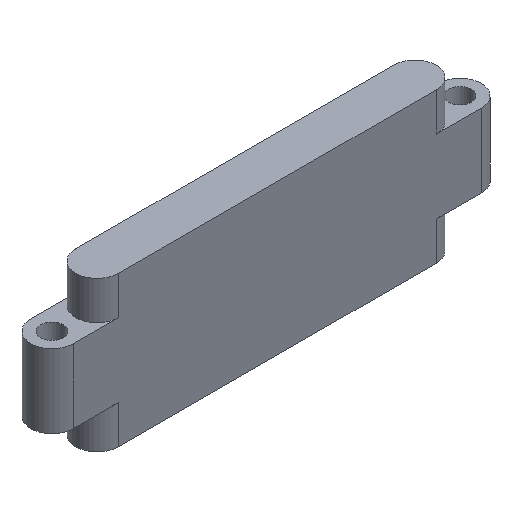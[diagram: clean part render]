
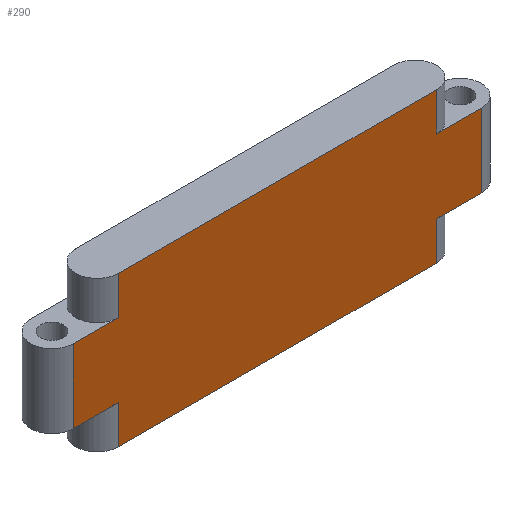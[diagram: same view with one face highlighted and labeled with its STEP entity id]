
A CAD part, isometric view. The second image highlights one B-rep face of the part: STEP entity #290.
In plain terms, the highlighted planar face has unit normal (0, -1, 0).
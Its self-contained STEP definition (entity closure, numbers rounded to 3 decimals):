
#23=PLANE('',#311);
#32=FACE_OUTER_BOUND('',#48,.T.);
#48=EDGE_LOOP('',(#219,#220,#221,#222,#223,#224,#225,#226,#227,#228,#229,
#230));
#67=LINE('',#433,#91);
#70=LINE('',#442,#94);
#81=LINE('',#465,#105);
#82=LINE('',#467,#106);
#83=LINE('',#469,#107);
#84=LINE('',#471,#108);
#85=LINE('',#473,#109);
#86=LINE('',#475,#110);
#87=LINE('',#477,#111);
#88=LINE('',#479,#112);
#89=LINE('',#481,#113);
#90=LINE('',#482,#114);
#91=VECTOR('',#343,10.);
#94=VECTOR('',#352,10.);
#105=VECTOR('',#367,10.);
#106=VECTOR('',#368,10.);
#107=VECTOR('',#369,10.);
#108=VECTOR('',#370,10.);
#109=VECTOR('',#371,10.);
#110=VECTOR('',#372,10.);
#111=VECTOR('',#373,10.);
#112=VECTOR('',#374,10.);
#113=VECTOR('',#375,10.);
#114=VECTOR('',#376,10.);
#132=VERTEX_POINT('',#430);
#133=VERTEX_POINT('',#432);
#136=VERTEX_POINT('',#440);
#146=VERTEX_POINT('',#464);
#147=VERTEX_POINT('',#466);
#148=VERTEX_POINT('',#468);
#149=VERTEX_POINT('',#470);
#150=VERTEX_POINT('',#472);
#151=VERTEX_POINT('',#474);
#152=VERTEX_POINT('',#476);
#153=VERTEX_POINT('',#478);
#154=VERTEX_POINT('',#480);
#160=EDGE_CURVE('',#132,#133,#67,.T.);
#165=EDGE_CURVE('',#136,#132,#70,.T.);
#176=EDGE_CURVE('',#146,#136,#81,.T.);
#177=EDGE_CURVE('',#146,#147,#82,.T.);
#178=EDGE_CURVE('',#148,#147,#83,.T.);
#179=EDGE_CURVE('',#148,#149,#84,.T.);
#180=EDGE_CURVE('',#150,#149,#85,.T.);
#181=EDGE_CURVE('',#151,#150,#86,.T.);
#182=EDGE_CURVE('',#152,#151,#87,.T.);
#183=EDGE_CURVE('',#152,#153,#88,.T.);
#184=EDGE_CURVE('',#154,#153,#89,.T.);
#185=EDGE_CURVE('',#154,#133,#90,.T.);
#219=ORIENTED_EDGE('',*,*,#160,.F.);
#220=ORIENTED_EDGE('',*,*,#165,.F.);
#221=ORIENTED_EDGE('',*,*,#176,.F.);
#222=ORIENTED_EDGE('',*,*,#177,.T.);
#223=ORIENTED_EDGE('',*,*,#178,.F.);
#224=ORIENTED_EDGE('',*,*,#179,.T.);
#225=ORIENTED_EDGE('',*,*,#180,.F.);
#226=ORIENTED_EDGE('',*,*,#181,.F.);
#227=ORIENTED_EDGE('',*,*,#182,.F.);
#228=ORIENTED_EDGE('',*,*,#183,.T.);
#229=ORIENTED_EDGE('',*,*,#184,.F.);
#230=ORIENTED_EDGE('',*,*,#185,.T.);
#290=ADVANCED_FACE('',(#32),#23,.F.);
#311=AXIS2_PLACEMENT_3D('',#463,#365,#366);
#343=DIRECTION('',(0.,0.,1.));
#352=DIRECTION('',(-1.,0.,0.));
#365=DIRECTION('center_axis',(0.,1.,0.));
#366=DIRECTION('ref_axis',(1.,0.,0.));
#367=DIRECTION('',(0.,0.,-1.));
#368=DIRECTION('',(1.,0.,0.));
#369=DIRECTION('',(0.,0.,-1.));
#370=DIRECTION('',(-1.,0.,0.));
#371=DIRECTION('',(0.,0.,-1.));
#372=DIRECTION('',(1.,0.,0.));
#373=DIRECTION('',(0.,0.,1.));
#374=DIRECTION('',(-1.,0.,0.));
#375=DIRECTION('',(0.,0.,1.));
#376=DIRECTION('',(1.,0.,0.));
#430=CARTESIAN_POINT('',(26.5,0.,-60.));
#432=CARTESIAN_POINT('',(26.5,0.,-44.7));
#433=CARTESIAN_POINT('',(26.5,0.,-45.));
#440=CARTESIAN_POINT('',(153.5,0.,-60.));
#442=CARTESIAN_POINT('',(180.,0.,-60.));
#463=CARTESIAN_POINT('Origin',(90.,0.,-30.));
#464=CARTESIAN_POINT('',(153.5,0.,-44.7));
#465=CARTESIAN_POINT('',(153.5,0.,-37.35));
#466=CARTESIAN_POINT('',(171.5,0.,-44.7));
#467=CARTESIAN_POINT('',(135.,0.,-44.7));
#468=CARTESIAN_POINT('',(171.5,0.,-15.3));
#469=CARTESIAN_POINT('',(171.5,0.,-15.));
#470=CARTESIAN_POINT('',(153.5,0.,-15.3));
#471=CARTESIAN_POINT('',(126.,0.,-15.3));
#472=CARTESIAN_POINT('',(153.5,0.,0.));
#473=CARTESIAN_POINT('',(153.5,0.,-15.));
#474=CARTESIAN_POINT('',(26.5,0.,0.));
#475=CARTESIAN_POINT('',(0.,0.,0.));
#476=CARTESIAN_POINT('',(26.5,0.,-15.3));
#477=CARTESIAN_POINT('',(26.5,0.,-22.65));
#478=CARTESIAN_POINT('',(8.5,0.,-15.3));
#479=CARTESIAN_POINT('',(45.,0.,-15.3));
#480=CARTESIAN_POINT('',(8.5,0.,-44.7));
#481=CARTESIAN_POINT('',(8.5,0.,-45.));
#482=CARTESIAN_POINT('',(54.,0.,-44.7));
